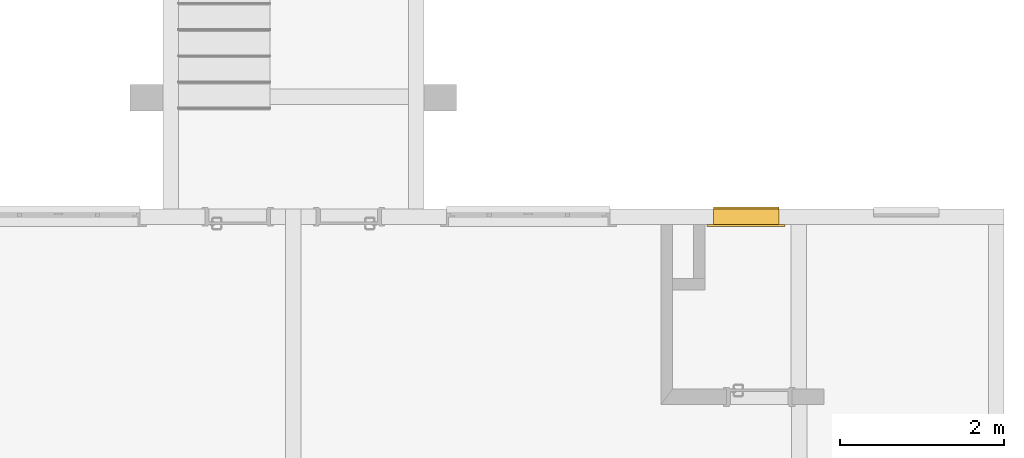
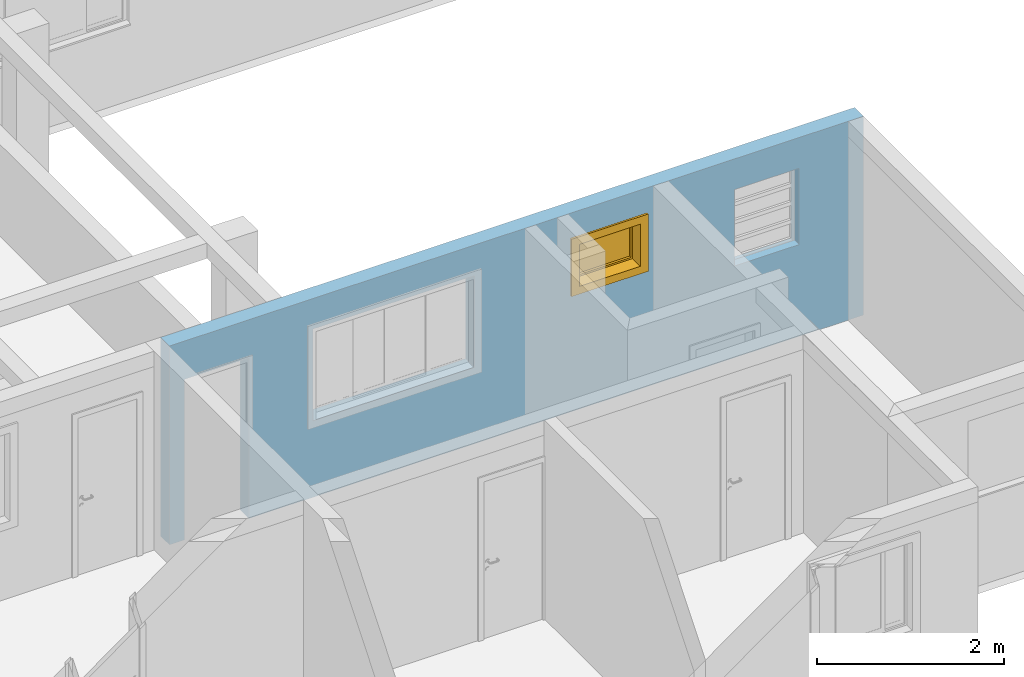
# One storey, part 20 of 43: 1 window, 4 openings, plus 1 element that does not belong to this part.
"""IFC2X3 building model written with IfcOpenShell, lengths in millimetres."""

from ifc_helpers import new_model, entity, si_unit, converted_unit, derived_unit, money_unit, direction, frame, origin_with_axes, origin_2d_with_axis, place, context, subcontext, project, spatial, polyline, rectangle, outline, extrude, open_shell, faceted_brep, surface_model, source, transform, mapped, material, layer, layer_set, layer_usage, type_object, element, fill, save


model = new_model("IFC2X3")

# Units and contexts
model_context = context("Model", 3, precision=0.01, world=origin_with_axes(), true_north=direction((0.0, 1.0)))
body_context = subcontext(model_context, "Body", "Model", "MODEL_VIEW")
ifc_project = project(units=[si_unit("LENGTHUNIT", "METRE", prefix="MILLI"), si_unit("AREAUNIT", "SQUARE_METRE"), si_unit("VOLUMEUNIT", "CUBIC_METRE"), converted_unit("PLANEANGLEUNIT", "DEGREE", entity("IfcPlaneAngleMeasure", 0.0174532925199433), si_unit("PLANEANGLEUNIT", "RADIAN"), dimensions=[0, 0, 0, 0, 0, 0, 0]), money_unit("USD"), converted_unit("TIMEUNIT", "Year", entity("IfcTimeMeasure", 31557600.0), si_unit("TIMEUNIT", "SECOND"), dimensions=[0, 0, 1, 0, 0, 0, 0]), si_unit("MASSUNIT", "GRAM", prefix="KILO"), si_unit("THERMODYNAMICTEMPERATUREUNIT", "DEGREE_CELSIUS"), si_unit("LUMINOUSINTENSITYUNIT", "LUMEN"), si_unit("ENERGYUNIT", "JOULE", prefix="MEGA"), derived_unit("THERMALCONDUCTANCEUNIT", [(si_unit("POWERUNIT", "WATT"), 1), (si_unit("LENGTHUNIT", "METRE"), -1), (si_unit("THERMODYNAMICTEMPERATUREUNIT", "KELVIN"), -1)]), derived_unit("SPECIFICHEATCAPACITYUNIT", [(si_unit("ENERGYUNIT", "JOULE"), 1), (si_unit("MASSUNIT", "GRAM", prefix="KILO"), -1), (si_unit("THERMODYNAMICTEMPERATUREUNIT", "KELVIN"), -1)]), derived_unit("MASSDENSITYUNIT", [(si_unit("MASSUNIT", "GRAM", prefix="KILO"), 1), (si_unit("VOLUMEUNIT", "CUBIC_METRE"), -1)])], contexts=[model_context])

# Site, building, storey
site_placement = place(None, origin_with_axes())
site = spatial("IfcSite", under=ifc_project, at=site_placement, Name="Local", CompositionType="ELEMENT")
building_placement = place(site_placement, origin_with_axes())
building = spatial("IfcBuilding", under=site, at=building_placement, Name="Construção", CompositionType="ELEMENT")
storey_placement = place(building_placement, origin_with_axes())
storey = spatial("IfcBuildingStorey", under=building, at=storey_placement, Name="Pavimento Tipo", CompositionType="ELEMENT", Elevation=0.0)

# Wall, openings, window
ifc_material = material(Name="Concreto - Estrutural")
ifc_layer = layer(ifc_material, 190.0, ventilated="UNKNOWN")
ifc_layer_set = layer_set([ifc_layer], Name="Concreto - Estrutural 190")
ifc_layer_usage = layer_usage(ifc_layer_set, "AXIS2", "NEGATIVE", 0.0)
wall_type = type_object("IfcWallType", Name="Concreto - Estrutural 190", PredefinedType="NOTDEFINED")
wall_placement = place(storey_placement, frame((72476.96486497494, -1757.538479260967, 0.0), z_axis=(0.0, 0.0, 1.0), x_axis=(-1.0, 0.0, 0.0)))
wall = element("IfcWallStandardCase", 1, at=wall_placement, inside=storey, type_object=wall_type, material=ifc_layer_usage, Name="Apartamento 4 - Parede-001", context=body_context, shape_type="SweptSolid", body=[
    extrude(outline(polyline([(0.0, -189.9999999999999), (8584.7651331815, -189.9999999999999), (8584.7651331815, 0.0), (0.0, 0.0), (0.0, -189.9999999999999)])), origin_with_axes(), (0.0, 0.0, 1.0), 2600.0),
])
opening_1_placement = place(wall_placement, frame((1195.000000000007, 0.0, 1200.0), z_axis=(0.0, 0.0, 1.0), x_axis=(1.0, 0.0, 0.0)))
element("IfcOpeningElement", 2, at=opening_1_placement, cuts=wall, Name="Apartamento 4 - J03", context=body_context, shape_type="SweptSolid", body=[
    extrude(rectangle(XDim=800.0000000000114, YDim=1000.0, at=origin_2d_with_axis()), frame((0.0, -139.9999999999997, 500.0), z_axis=(0.0, -1.0, 0.0), x_axis=(-1.0, 0.0, 0.0)), (0.0, 0.0, -1.0), 330.0),
    extrude(rectangle(XDim=800.0000000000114, YDim=1000.0, at=origin_2d_with_axis()), frame((0.0, -139.9999999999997, 500.0), z_axis=(0.0, 1.0, 0.0), x_axis=(-1.0, 0.0, 0.0)), (0.0, 0.0, -1.0), 240.0),
    extrude(rectangle(XDim=800.0000000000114, YDim=30.00000000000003, at=origin_2d_with_axis()), frame((0.0, -105.0, -15.00000000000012), z_axis=(0.0, 1.0, 0.0), x_axis=(-1.0, 0.0, 0.0)), (0.0, 0.0, -1.0), 225.0),
])
opening_2_placement = place(wall_placement, frame((3149.999999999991, 0.0, 1600.0), z_axis=(0.0, 0.0, 1.0), x_axis=(1.0, 0.0, 0.0)))
opening_2 = element("IfcOpeningElement", 3, at=opening_2_placement, cuts=wall, Name="Apartamento 4 - J02", context=body_context, shape_type="SweptSolid", body=[
    extrude(rectangle(XDim=800.0000000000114, YDim=600.0000000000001, at=origin_2d_with_axis()), frame((0.0, 189.9999999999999, 300.0000000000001), z_axis=(0.0, -1.0, 0.0), x_axis=(-1.0, 0.0, 0.0)), (0.0, 0.0, 1.0), 570.0000000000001),
    extrude(rectangle(XDim=800.0000000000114, YDim=30.00000000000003, at=origin_2d_with_axis()), frame((0.0, -155.0000000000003, -15.00000000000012), z_axis=(0.0, 1.0, 0.0), x_axis=(-1.0, 0.0, 0.0)), (0.0, 0.0, -1.0), 225.0),
    extrude(rectangle(XDim=949.9999999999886, YDim=750.0000000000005, at=origin_2d_with_axis()), frame((0.0, 0.0, 300.0000000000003), z_axis=(0.0, -1.0, 0.0), x_axis=(-1.0, 0.0, 0.0)), (0.0, 0.0, -1.0), 190.0),
])
opening_3_placement = place(wall_placement, frame((5810.000000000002, 0.0, 1000.0), z_axis=(0.0, 0.0, 1.0), x_axis=(1.0, 0.0, 0.0)))
element("IfcOpeningElement", 4, at=opening_3_placement, cuts=wall, Name="Apartamento 4 - J01", context=body_context, shape_type="SweptSolid", body=[
    extrude(rectangle(XDim=2000.0, YDim=1200.0, at=origin_2d_with_axis()), frame((0.0, -139.9999999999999, 600.0000000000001), z_axis=(0.0, 1.0, 0.0), x_axis=(1.0, 0.0, 0.0)), (0.0, 0.0, 1.0), 330.0),
    extrude(rectangle(XDim=2000.0, YDim=1200.0, at=origin_2d_with_axis()), frame((0.0, -139.9999999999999, 600.0000000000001), z_axis=(0.0, -1.0, 0.0), x_axis=(1.0, 0.0, 0.0)), (0.0, 0.0, 1.0), 240.0),
    extrude(rectangle(XDim=2150.000000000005, YDim=1350.0, at=origin_2d_with_axis()), frame((0.0, 0.0, 600.0000000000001), z_axis=(0.0, 1.0, 0.0), x_axis=(1.0, 0.0, 0.0)), (0.0, 0.0, 1.0), 240.0),
])
opening_4_placement = place(wall_placement, frame((8000.0, 0.0, 0.0), z_axis=(0.0, 0.0, 1.0), x_axis=(1.0, 0.0, 0.0)))
element("IfcOpeningElement", 5, at=opening_4_placement, cuts=wall, Name="Apartamento 4 - P01", context=body_context, shape_type="SweptSolid", body=[
    extrude(rectangle(XDim=800.0000000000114, YDim=2100.0, at=origin_2d_with_axis()), frame((0.0, 189.9999999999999, 1050.0), z_axis=(0.0, -1.0, 0.0), x_axis=(1.0, 0.0, 0.0)), (0.0, 0.0, 1.0), 570.0000000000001),
    extrude(rectangle(XDim=870.0000000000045, YDim=2135.0, at=origin_2d_with_axis()), frame((0.0, 0.0, 1067.5), z_axis=(0.0, -1.0, 0.0), x_axis=(1.0, 0.0, 0.0)), (0.0, 0.0, -1.0), 190.0),
    extrude(rectangle(XDim=870.0000000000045, YDim=2135.0, at=origin_2d_with_axis()), frame((0.0, -189.9999999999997, 1067.5), z_axis=(0.0, 1.0, 0.0), x_axis=(1.0, 0.0, 0.0)), (0.0, 0.0, -1.0), 190.0),
])
window_style = type_object("IfcWindowStyle", Name="Janela 27", ConstructionType="NOTDEFINED", OperationType="SINGLE_PANEL", ParameterTakesPrecedence=False, Sizeable=False)
shared_shape = source(origin_with_axes(), body_context, "Body", "SurfaceModel", [
    faceted_brep([(-400.0, -34.99999999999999, 0.0), (400.0, -34.99999999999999, 0.0), (400.0, -24.99999999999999, 0.0), (-400.0, -24.99999999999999, 0.0), (-400.0, -34.99999999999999, -30.0), (400.0, -34.99999999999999, -29.99999999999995), (400.0, 25.0, -29.99999999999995), (400.0, 25.0, -17.02704173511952), (400.0, -24.99999999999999, -9.999999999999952), (-400.0, -24.99999999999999, -10.0), (-400.0, 25.0, -17.02704173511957), (-400.0, 25.0, -30.0)], [[[0, 1, 2, 3]], [[4, 5, 1, 0]], [[1, 5, 6, 7, 8, 2]], [[3, 2, 8, 9]], [[0, 3, 9, 10, 11, 4]], [[11, 6, 5, 4]], [[10, 7, 6, 11]], [[9, 8, 7, 10]]]),
    faceted_brep([(-400.0, -49.99999999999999, 0.0), (400.0, -49.99999999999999, 0.0), (400.0, -190.0, 0.0), (-400.0, -190.0, 0.0), (-400.0, -50.00000000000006, 600.0), (400.0, -50.00000000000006, 600.0), (-375.0, -49.99999999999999, 24.99999999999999), (375.0, -49.99999999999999, 24.99999999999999), (375.0, -50.00000000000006, 575.0), (-375.0, -50.00000000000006, 575.0), (400.0, -190.0000000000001, 600.0), (-400.0, -190.0000000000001, 600.0), (-375.0, -190.0, 24.99999999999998), (-375.0, -190.0000000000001, 575.0), (375.0, -190.0000000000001, 575.0), (375.0, -190.0, 24.99999999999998)], [[[0, 1, 2, 3]], [[0, 4, 5, 1], [6, 7, 8, 9]], [[1, 5, 10, 2]], [[3, 2, 10, 11], [12, 13, 14, 15]], [[4, 0, 3, 11]], [[5, 4, 11, 10]], [[7, 6, 12, 15]], [[8, 7, 15, 14]], [[9, 8, 14, 13]], [[6, 9, 13, 12]]]),
    faceted_brep([(-475.0, -215.0, -75.00000000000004), (-475.0, -190.0, -75.00000000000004), (-375.0, -190.0, 24.99999999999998), (-375.0, -215.0, 24.99999999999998), (-475.0, -215.0000000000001, 675.0), (-475.0, -190.0000000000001, 675.0), (-375.0, -190.0000000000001, 575.0), (-375.0, -215.0000000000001, 575.0)], [[[0, 1, 2, 3]], [[4, 5, 1, 0]], [[1, 5, 6, 2]], [[3, 2, 6, 7]], [[0, 3, 7, 4]], [[7, 6, 5, 4]]]),
    faceted_brep([(475.0, -215.0000000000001, 675.0), (475.0, -190.0000000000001, 675.0), (375.0, -190.0000000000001, 575.0), (375.0, -215.0000000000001, 575.0), (475.0, -215.0, -75.00000000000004), (475.0, -190.0, -75.00000000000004), (375.0, -190.0, 24.99999999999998), (375.0, -215.0, 24.99999999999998)], [[[0, 1, 2, 3]], [[4, 5, 1, 0]], [[1, 5, 6, 2]], [[3, 2, 6, 7]], [[0, 3, 7, 4]], [[7, 6, 5, 4]]]),
    faceted_brep([(475.0, -215.0, -75.00000000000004), (475.0, -190.0, -75.00000000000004), (375.0, -190.0, 24.99999999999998), (375.0, -215.0, 24.99999999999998), (-475.0, -215.0, -75.00000000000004), (-475.0, -190.0, -75.00000000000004), (-375.0, -190.0, 24.99999999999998), (-375.0, -215.0, 24.99999999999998)], [[[0, 1, 2, 3]], [[4, 5, 1, 0]], [[1, 5, 6, 2]], [[3, 2, 6, 7]], [[0, 3, 7, 4]], [[7, 6, 5, 4]]]),
    faceted_brep([(-475.0, -215.0000000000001, 674.9999999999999), (-475.0, -190.0000000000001, 674.9999999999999), (-375.0, -190.0000000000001, 575.0), (-375.0, -215.0000000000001, 575.0), (475.0, -215.0000000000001, 674.9999999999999), (475.0, -190.0000000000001, 674.9999999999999), (375.0, -190.0000000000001, 575.0), (375.0, -215.0000000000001, 575.0)], [[[0, 1, 2, 3]], [[4, 5, 1, 0]], [[1, 5, 6, 2]], [[3, 2, 6, 7]], [[0, 3, 7, 4]], [[7, 6, 5, 4]]]),
    faceted_brep([(-373.0000000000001, 0.0, 552.9999999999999), (-400.0, 0.0, 552.9999999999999), (-400.0, -50.00000000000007, 552.9999999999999), (-353.0000000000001, -50.00000000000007, 552.9999999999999), (-353.0000000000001, -20.00000000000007, 552.9999999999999), (-373.0000000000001, -20.00000000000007, 552.9999999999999), (-373.0000000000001, 0.0, 46.99999999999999), (-400.0, 0.0, 46.99999999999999), (-400.0, -50.00000000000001, 46.99999999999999), (-353.0000000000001, -50.00000000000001, 46.99999999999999), (-353.0000000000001, -20.00000000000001, 46.99999999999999), (-373.0000000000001, -20.00000000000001, 47.00000000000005)], [[[0, 1, 2, 3, 4, 5]], [[6, 7, 1, 0]], [[1, 7, 8, 2]], [[2, 8, 9, 3]], [[4, 3, 9, 10]], [[10, 11, 5, 4]], [[5, 11, 6, 0]], [[11, 10, 9, 8, 7, 6]]]),
    faceted_brep([(353.0000000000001, -20.00000000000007, 552.9999999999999), (353.0000000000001, -50.00000000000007, 552.9999999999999), (400.0, -50.00000000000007, 552.9999999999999), (400.0, 0.0, 552.9999999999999), (373.0000000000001, 0.0, 552.9999999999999), (373.0000000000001, -20.00000000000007, 552.9999999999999), (353.0000000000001, -20.00000000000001, 46.99999999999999), (353.0000000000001, -50.00000000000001, 46.99999999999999), (400.0, -50.00000000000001, 46.99999999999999), (400.0, 0.0, 46.99999999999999), (373.0000000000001, 0.0, 46.99999999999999), (373.0000000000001, -20.00000000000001, 46.99999999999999)], [[[0, 1, 2, 3, 4, 5]], [[6, 7, 1, 0]], [[8, 2, 1, 7]], [[9, 3, 2, 8]], [[4, 3, 9, 10]], [[10, 11, 5, 4]], [[5, 11, 6, 0]], [[11, 10, 9, 8, 7, 6]]]),
    faceted_brep([(353.0000000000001, -20.00000000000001, 46.99999999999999), (353.0000000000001, -50.00000000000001, 46.99999999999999), (400.0, -50.00000000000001, 46.99999999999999), (400.0, 0.0, 46.99999999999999), (373.0000000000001, 0.0, 46.99999999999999), (373.0000000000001, -20.00000000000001, 46.99999999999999), (-353.0000000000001, -20.00000000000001, 46.99999999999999), (-353.0000000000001, -50.00000000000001, 46.99999999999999), (-400.0, -50.00000000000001, 46.99999999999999), (-400.0, -50.0, 0.0), (400.0, -50.0, 0.0), (400.0, 0.0, 0.0), (-373.0000000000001, 0.0, 27.00000000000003), (373.0000000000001, 0.0, 27.00000000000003), (-400.0, 0.0, 0.0), (-400.0, 0.0, 46.99999999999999), (-373.0000000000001, 0.0, 46.99999999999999), (373.0000000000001, -20.0, 27.00000000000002), (-373.0000000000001, -20.0, 27.00000000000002), (-373.0000000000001, -20.00000000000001, 47.00000000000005)], [[[0, 1, 2, 3, 4, 5]], [[6, 7, 1, 0]], [[8, 9, 10, 2, 1, 7]], [[11, 3, 2, 10]], [[12, 13, 4, 3, 11, 14, 15, 16]], [[13, 17, 5, 4]], [[5, 17, 18, 19, 6, 0]], [[19, 16, 15, 8, 7, 6]], [[15, 14, 9, 8]], [[14, 11, 10, 9]], [[12, 18, 17, 13]], [[19, 18, 12, 16]]]),
    faceted_brep([(-373.0000000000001, 0.0, 552.9999999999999), (-400.0, 0.0, 552.9999999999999), (-400.0, 0.0, 600.0), (400.0, 0.0, 600.0), (400.0, 0.0, 552.9999999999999), (373.0000000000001, 0.0, 552.9999999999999), (373.0000000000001, 0.0, 573.0), (-373.0000000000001, 0.0, 573.0), (-373.0000000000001, -20.00000000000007, 552.9999999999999), (-353.0000000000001, -20.00000000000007, 552.9999999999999), (-353.0000000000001, -50.00000000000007, 552.9999999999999), (-400.0, -50.00000000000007, 552.9999999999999), (-400.0, -50.00000000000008, 600.0), (400.0, -50.00000000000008, 600.0), (400.0, -50.00000000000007, 552.9999999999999), (373.0000000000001, -20.00000000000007, 552.9999999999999), (353.0000000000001, -50.00000000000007, 552.9999999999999), (353.0000000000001, -20.00000000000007, 552.9999999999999), (373.0000000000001, -20.00000000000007, 573.0), (-373.0000000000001, -20.00000000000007, 573.0)], [[[0, 1, 2, 3, 4, 5, 6, 7]], [[8, 9, 10, 11, 1, 0]], [[2, 1, 11, 12]], [[3, 2, 12, 13]], [[4, 3, 13, 14]], [[15, 5, 4, 14, 16, 17]], [[5, 15, 18, 6]], [[6, 18, 19, 7]], [[7, 19, 8, 0]], [[17, 9, 8, 19, 18, 15]], [[17, 16, 10, 9]], [[14, 13, 12, 11, 10, 16]]]),
    faceted_brep([(-323.0000000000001, -20.00000000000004, 522.9999999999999), (-323.0000000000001, 0.0, 522.9999999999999), (-373.0000000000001, 0.0, 522.9999999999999), (-373.0000000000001, -20.00000000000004, 522.9999999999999), (-323.0000000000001, -19.99999999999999, 77.00000000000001), (-323.0000000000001, 0.0, 77.00000000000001), (-373.0000000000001, 0.0, 77.00000000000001), (-373.0000000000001, -19.99999999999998, 77.00000000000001)], [[[0, 1, 2, 3]], [[4, 5, 1, 0]], [[1, 5, 6, 2]], [[3, 2, 6, 7]], [[0, 3, 7, 4]], [[7, 6, 5, 4]]]),
    faceted_brep([(323.0000000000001, -20.00000000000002, 77.00000000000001), (323.0000000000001, 0.0, 77.00000000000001), (373.0000000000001, 0.0, 77.00000000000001), (373.0000000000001, -20.00000000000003, 77.00000000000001), (323.0000000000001, -20.00000000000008, 522.9999999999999), (323.0000000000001, 0.0, 522.9999999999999), (373.0000000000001, 0.0, 522.9999999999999), (373.0000000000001, -20.00000000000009, 522.9999999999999)], [[[0, 1, 2, 3]], [[4, 5, 1, 0]], [[1, 5, 6, 2]], [[3, 2, 6, 7]], [[0, 3, 7, 4]], [[7, 6, 5, 4]]]),
    faceted_brep([(373.0000000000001, -20.00000000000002, 27.0), (373.0000000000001, 0.0, 27.00000000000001), (373.0000000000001, 0.0, 77.00000000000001), (373.0000000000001, -20.00000000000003, 77.00000000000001), (-373.0000000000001, -19.99999999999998, 27.0), (-373.0000000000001, 0.0, 27.00000000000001), (-373.0000000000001, 0.0, 77.00000000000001), (-323.0000000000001, 0.0, 77.00000000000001), (323.0000000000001, 0.0, 77.00000000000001), (323.0000000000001, -20.00000000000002, 77.00000000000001), (-323.0000000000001, -19.99999999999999, 77.00000000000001), (-373.0000000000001, -19.99999999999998, 77.00000000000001)], [[[0, 1, 2, 3]], [[4, 5, 1, 0]], [[1, 5, 6, 7, 8, 2]], [[3, 2, 8, 9]], [[0, 3, 9, 10, 11, 4]], [[11, 6, 5, 4]], [[10, 7, 6, 11]], [[9, 8, 7, 10]]]),
    faceted_brep([(-373.0000000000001, -20.00000000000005, 573.0), (-373.0000000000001, 0.0, 573.0), (-373.0000000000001, 0.0, 522.9999999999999), (-373.0000000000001, -20.00000000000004, 522.9999999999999), (373.0000000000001, -20.00000000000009, 573.0), (373.0000000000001, 0.0, 573.0), (373.0000000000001, 0.0, 522.9999999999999), (323.0000000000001, 0.0, 522.9999999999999), (-323.0000000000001, 0.0, 522.9999999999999), (-323.0000000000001, -20.00000000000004, 522.9999999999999), (323.0000000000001, -20.00000000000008, 522.9999999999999), (373.0000000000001, -20.00000000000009, 522.9999999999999)], [[[0, 1, 2, 3]], [[4, 5, 1, 0]], [[1, 5, 6, 7, 8, 2]], [[3, 2, 8, 9]], [[0, 3, 9, 10, 11, 4]], [[11, 6, 5, 4]], [[10, 7, 6, 11]], [[9, 8, 7, 10]]]),
    surface_model("IfcShellBasedSurfaceModel", [(-323.0000000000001, -20.00000000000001, 77.00000000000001), (323.0000000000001, -20.00000000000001, 77.00000000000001), (323.0000000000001, -20.00000000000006, 522.9999999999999), (-323.0000000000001, -20.00000000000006, 522.9999999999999)], [open_shell([[[0, 1, 2, 3]]])]),
    surface_model("IfcShellBasedSurfaceModel", [(-323.0000000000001, 0.0, 77.00000000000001), (-323.0000000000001, 0.0, 522.9999999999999), (323.0000000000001, 0.0, 522.9999999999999), (323.0000000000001, 0.0, 77.00000000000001)], [open_shell([[[0, 1, 2, 3]]])]),
])
window_placement = place(opening_2_placement, frame((400.0000000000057, 0.0, 0.0), z_axis=(0.0, 0.0, 1.0), x_axis=(-1.0, 0.0, 0.0)))
window = element("IfcWindow", 6, at=window_placement, inside=storey, type_object=window_style, Name="Apartamento 4 - J02", ObjectType="WINDOW", OverallHeight=600.0, OverallWidth=800.0, context=body_context, shape_type="MappedRepresentation", body=[
    mapped(shared_shape, transform((400.0000000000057, 190.0000000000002, 0.0))),
])
fill(opening_2, window)

save(model, "model.ifc")
